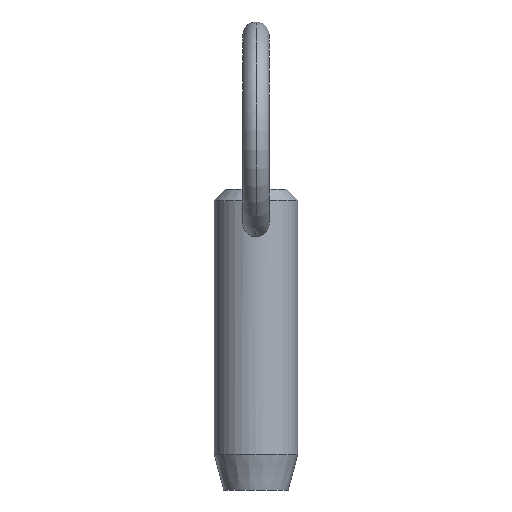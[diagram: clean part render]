
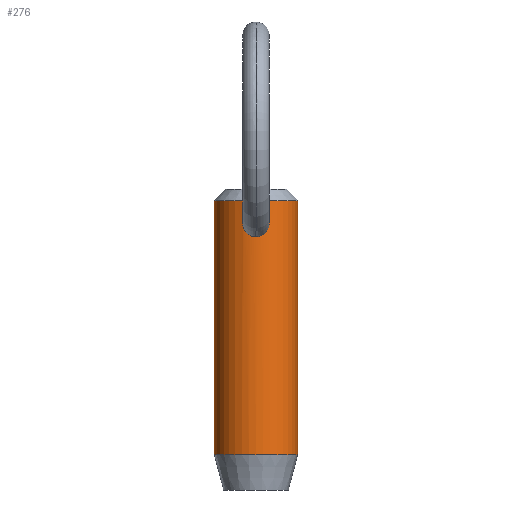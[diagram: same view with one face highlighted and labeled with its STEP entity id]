
A CAD part, front view. The second image highlights one B-rep face of the part: STEP entity #276.
In plain terms, the highlighted cylindrical face has radius 4.76 mm (diameter 9.52 mm), a partial arc.
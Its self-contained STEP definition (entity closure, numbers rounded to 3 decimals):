
#13 = CARTESIAN_POINT ( 'NONE',  ( 1.404, -4.548, 18.253 ) ) ;
#23 = CARTESIAN_POINT ( 'NONE',  ( 0., -4.76, 16.126 ) ) ;
#26 = CARTESIAN_POINT ( 'NONE',  ( 0., -4.76, 16.126 ) ) ;
#29 = CARTESIAN_POINT ( 'NONE',  ( 1.503, -4.517, 17.64 ) ) ;
#30 = CARTESIAN_POINT ( 'NONE',  ( 0., -4.76, 19.448 ) ) ;
#32 = DIRECTION ( 'NONE',  ( -1., 0., 0. ) ) ;
#35 = CARTESIAN_POINT ( 'NONE',  ( -1.441, -4.537, 18.157 ) ) ;
#39 = CARTESIAN_POINT ( 'NONE',  ( -1.487, -4.522, 17.953 ) ) ;
#40 = CARTESIAN_POINT ( 'NONE',  ( -4.76, 0., 15.2 ) ) ;
#48 = VERTEX_POINT ( 'NONE', #241 ) ;
#58 = CARTESIAN_POINT ( 'NONE',  ( 1.478, -4.525, 17.952 ) ) ;
#60 = VERTEX_POINT ( 'NONE', #23 ) ;
#68 = CYLINDRICAL_SURFACE ( 'NONE', #178, 4.76 ) ;
#74 = ORIENTED_EDGE ( 'NONE', *, *, #175, .T. ) ;
#82 = DIRECTION ( 'NONE',  ( 0., 0., 1. ) ) ;
#85 = CARTESIAN_POINT ( 'NONE',  ( -1.039, -4.646, 16.526 ) ) ;
#109 = DIRECTION ( 'NONE',  ( 0., 0., -1. ) ) ;
#110 = CARTESIAN_POINT ( 'NONE',  ( 0.209, -4.756, 19.434 ) ) ;
#123 = CARTESIAN_POINT ( 'NONE',  ( -1.353, -4.564, 16.935 ) ) ;
#124 = LINE ( 'NONE', #40, #426 ) ;
#127 = DIRECTION ( 'NONE',  ( 0., 0., -1. ) ) ;
#129 = CARTESIAN_POINT ( 'NONE',  ( -0.777, -4.7, 19.185 ) ) ;
#132 = ORIENTED_EDGE ( 'NONE', *, *, #410, .T. ) ;
#135 = CARTESIAN_POINT ( 'NONE',  ( 0., -4.76, 19.448 ) ) ;
#139 = AXIS2_PLACEMENT_3D ( 'NONE', #326, #82, #32 ) ;
#150 = CARTESIAN_POINT ( 'NONE',  ( 0.925, -4.67, 19.039 ) ) ;
#151 = EDGE_CURVE ( 'NONE', #484, #200, #412, .T. ) ;
#158 = CARTESIAN_POINT ( 'NONE',  ( 0.512, -4.733, 16.208 ) ) ;
#161 = CARTESIAN_POINT ( 'NONE',  ( 1.178, -4.613, 16.676 ) ) ;
#163 = CARTESIAN_POINT ( 'NONE',  ( 1.385, -4.554, 17.032 ) ) ;
#165 = CARTESIAN_POINT ( 'NONE',  ( 0., 0., 15.2 ) ) ;
#168 = CARTESIAN_POINT ( 'NONE',  ( -0.703, -4.709, 16.289 ) ) ;
#172 = VECTOR ( 'NONE', #109, 1000. ) ;
#175 = EDGE_CURVE ( 'NONE', #60, #357, #230, .T. ) ;
#178 = AXIS2_PLACEMENT_3D ( 'NONE', #165, #127, #324 ) ;
#189 = CARTESIAN_POINT ( 'NONE',  ( 0., -4.76, 19.448 ) ) ;
#190 = CARTESIAN_POINT ( 'NONE',  ( 1.19, -4.611, 18.724 ) ) ;
#193 = CARTESIAN_POINT ( 'NONE',  ( -4.76, 0., -8.7 ) ) ;
#195 = CARTESIAN_POINT ( 'NONE',  ( 1.492, -4.52, 17.848 ) ) ;
#198 = CARTESIAN_POINT ( 'NONE',  ( 0.797, -4.697, 16.329 ) ) ;
#200 = VERTEX_POINT ( 'NONE', #479 ) ;
#205 = LINE ( 'NONE', #389, #172 ) ;
#209 = CARTESIAN_POINT ( 'NONE',  ( -0.103, -4.76, 19.448 ) ) ;
#220 = ORIENTED_EDGE ( 'NONE', *, *, #461, .F. ) ;
#222 = AXIS2_PLACEMENT_3D ( 'NONE', #277, #345, #506 ) ;
#230 = B_SPLINE_CURVE_WITH_KNOTS ( 'NONE', 3,
 ( #255, #398, #522, #168, #297, #291, #85, #366, #123, #253, #364, #39, #35, #521, #369, #405, #129, #443, #480, #404, #209, #30 ),
 .UNSPECIFIED., .F., .F.,
 ( 4, 2, 2, 2, 2, 2, 2, 2, 2, 2, 4 ),
 ( 0.009, 0.01, 0.01, 0.011, 0.011, 0.012, 0.012, 0.013, 0.014, 0.014, 0.014 ),
 .UNSPECIFIED. ) ;
#240 = CARTESIAN_POINT ( 'NONE',  ( 1.499, -4.518, 17.537 ) ) ;
#241 = CARTESIAN_POINT ( 'NONE',  ( 4.76, 0., 20.25 ) ) ;
#244 = CARTESIAN_POINT ( 'NONE',  ( 1.24, -4.596, 16.76 ) ) ;
#253 = CARTESIAN_POINT ( 'NONE',  ( -1.483, -4.524, 17.326 ) ) ;
#255 = CARTESIAN_POINT ( 'NONE',  ( 0., -4.76, 16.126 ) ) ;
#260 = ORIENTED_EDGE ( 'NONE', *, *, #445, .T. ) ;
#270 = CARTESIAN_POINT ( 'NONE',  ( 0.687, -4.711, 19.235 ) ) ;
#276 = ADVANCED_FACE ( 'NONE', ( #515, #441 ), #68, .T. ) ;
#277 = CARTESIAN_POINT ( 'NONE',  ( 0., 0., 20.25 ) ) ;
#279 = ORIENTED_EDGE ( 'NONE', *, *, #151, .T. ) ;
#282 = CARTESIAN_POINT ( 'NONE',  ( 1.344, -4.567, 16.939 ) ) ;
#284 = CARTESIAN_POINT ( 'NONE',  ( 0.208, -4.757, 16.136 ) ) ;
#291 = CARTESIAN_POINT ( 'NONE',  ( -0.961, -4.663, 16.457 ) ) ;
#297 = CARTESIAN_POINT ( 'NONE',  ( -0.793, -4.694, 16.339 ) ) ;
#312 = CARTESIAN_POINT ( 'NONE',  ( 1.434, -4.539, 18.154 ) ) ;
#317 = DIRECTION ( 'NONE',  ( 0., 0., -1. ) ) ;
#324 = DIRECTION ( 'NONE',  ( -1., 0., 0. ) ) ;
#326 = CARTESIAN_POINT ( 'NONE',  ( 0., 0., -8.7 ) ) ;
#332 = CARTESIAN_POINT ( 'NONE',  ( -4.76, 0., 20.25 ) ) ;
#345 = DIRECTION ( 'NONE',  ( 0., 0., -1. ) ) ;
#347 = VERTEX_POINT ( 'NONE', #332 ) ;
#357 = VERTEX_POINT ( 'NONE', #135 ) ;
#364 = CARTESIAN_POINT ( 'NONE',  ( -1.508, -4.515, 17.537 ) ) ;
#365 = CIRCLE ( 'NONE', #222, 4.76 ) ;
#366 = CARTESIAN_POINT ( 'NONE',  ( -1.247, -4.596, 16.752 ) ) ;
#369 = CARTESIAN_POINT ( 'NONE',  ( -1.19, -4.611, 18.724 ) ) ;
#388 = CARTESIAN_POINT ( 'NONE',  ( 0.77, -4.698, 19.175 ) ) ;
#389 = CARTESIAN_POINT ( 'NONE',  ( 4.76, 0., 15.2 ) ) ;
#391 = CARTESIAN_POINT ( 'NONE',  ( 1.473, -4.526, 17.331 ) ) ;
#392 = CARTESIAN_POINT ( 'NONE',  ( 1.45, -4.534, 17.228 ) ) ;
#395 = ORIENTED_EDGE ( 'NONE', *, *, #486, .T. ) ;
#398 = CARTESIAN_POINT ( 'NONE',  ( -0.21, -4.76, 16.126 ) ) ;
#404 = CARTESIAN_POINT ( 'NONE',  ( -0.208, -4.757, 19.434 ) ) ;
#405 = CARTESIAN_POINT ( 'NONE',  ( -0.932, -4.67, 19.045 ) ) ;
#410 = EDGE_CURVE ( 'NONE', #347, #484, #124, .T. ) ;
#412 = CIRCLE ( 'NONE', #139, 4.76 ) ;
#426 = VECTOR ( 'NONE', #317, 1000. ) ;
#427 = CARTESIAN_POINT ( 'NONE',  ( 0.997, -4.655, 18.964 ) ) ;
#430 = CARTESIAN_POINT ( 'NONE',  ( 0.506, -4.734, 19.337 ) ) ;
#436 = CARTESIAN_POINT ( 'NONE',  ( 0.105, -4.76, 16.126 ) ) ;
#441 = FACE_BOUND ( 'NONE', #494, .T. ) ;
#443 = CARTESIAN_POINT ( 'NONE',  ( -0.504, -4.734, 19.338 ) ) ;
#445 = EDGE_CURVE ( 'NONE', #48, #347, #365, .T. ) ;
#456 = EDGE_LOOP ( 'NONE', ( #220, #260, #132, #279 ) ) ;
#459 = CARTESIAN_POINT ( 'NONE',  ( 1.293, -4.582, 18.542 ) ) ;
#461 = EDGE_CURVE ( 'NONE', #48, #200, #205, .T. ) ;
#465 = CARTESIAN_POINT ( 'NONE',  ( 0.104, -4.76, 19.448 ) ) ;
#467 = CARTESIAN_POINT ( 'NONE',  ( 0.409, -4.743, 19.378 ) ) ;
#474 = CARTESIAN_POINT ( 'NONE',  ( 0.411, -4.743, 16.177 ) ) ;
#479 = CARTESIAN_POINT ( 'NONE',  ( 4.76, 0., -8.7 ) ) ;
#480 = CARTESIAN_POINT ( 'NONE',  ( -0.409, -4.743, 19.378 ) ) ;
#484 = VERTEX_POINT ( 'NONE', #193 ) ;
#486 = EDGE_CURVE ( 'NONE', #357, #60, #504, .T. ) ;
#494 = EDGE_LOOP ( 'NONE', ( #395, #74 ) ) ;
#504 = B_SPLINE_CURVE_WITH_KNOTS ( 'NONE', 3,
 ( #189, #465, #110, #467, #430, #270, #388, #150, #427, #190, #459, #13, #312, #58, #195, #29, #240, #391, #392, #163, #282, #244, #161, #514, #198, #158, #474, #284, #436, #26 ),
 .UNSPECIFIED., .F., .F.,
 ( 4, 2, 2, 2, 2, 2, 2, 2, 2, 2, 2, 2, 2, 2, 4 ),
 ( 0.004, 0.005, 0.005, 0.005, 0.006, 0.006, 0.007, 0.007, 0.007, 0.007, 0.008, 0.008, 0.009, 0.009, 0.009 ),
 .UNSPECIFIED. ) ;
#506 = DIRECTION ( 'NONE',  ( 1., 0., 0. ) ) ;
#515 = FACE_OUTER_BOUND ( 'NONE', #456, .T. ) ;
#514 = CARTESIAN_POINT ( 'NONE',  ( 0.97, -4.662, 16.45 ) ) ;
#521 = CARTESIAN_POINT ( 'NONE',  ( -1.292, -4.582, 18.545 ) ) ;
#522 = CARTESIAN_POINT ( 'NONE',  ( -0.416, -4.746, 16.167 ) ) ;
